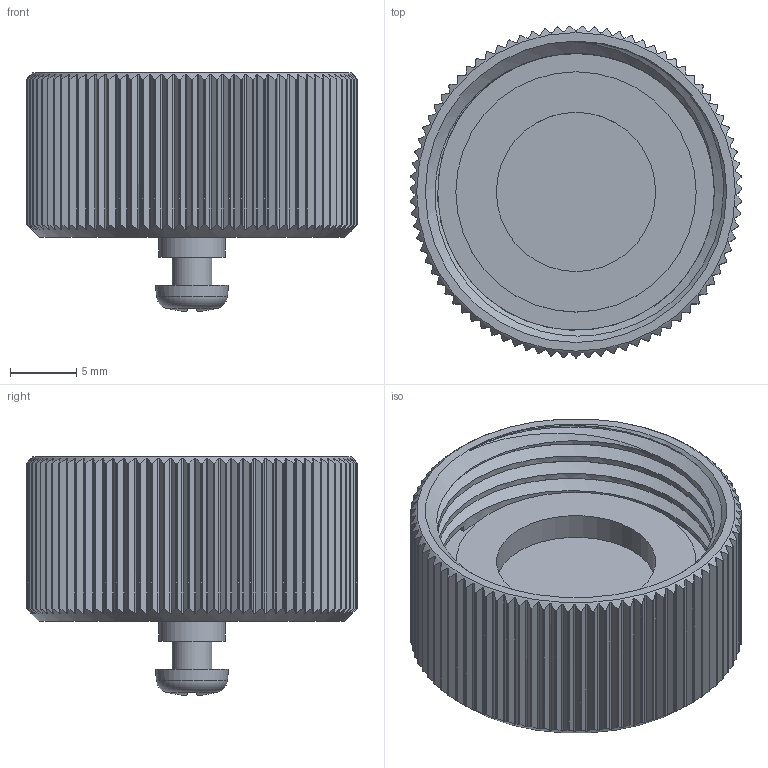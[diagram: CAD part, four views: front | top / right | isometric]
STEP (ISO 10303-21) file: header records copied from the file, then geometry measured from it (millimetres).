
FILE_DESCRIPTION (( 'STEP AP203' ), '1' );
FILE_NAME ('CM03-RC (without chain).STEP', '2022-04-04T08:46:12', ( '' ), ( '' ), 'SwSTEP 2.0', 'SolidWorks 2018', '' );
FILE_SCHEMA (( 'CONFIG_CONTROL_DESIGN' ));
Length unit declared in the file: millimetre
Products named in the file (1): CM03-RC (without chain)
Bounding box: 25 x 24.99 x 17.96 mm (x, y, z)
Volume: 3663.8 mm3; surface area: 3255.3 mm2
Topology: 1 solids, 1 shells, 540 faces, 1591 edges, 1060 vertices
Faces by surface type: cylinder 342, plane 189, cone 4, bspline 3, torus 1, sphere 1
Full cylindrical faces by diameter (mm): 3 x1, 5 x1, 12 x1, 18.1 x1, 22.7 x1
Entity records: 20200 total; most frequent: CARTESIAN_POINT 7296, ORIENTED_EDGE 3152, DIRECTION 2006, EDGE_CURVE 1576, VERTEX_POINT 1056, B_SPLINE_CURVE_WITH_KNOTS 844, AXIS2_PLACEMENT_3D 739, EDGE_LOOP 558
